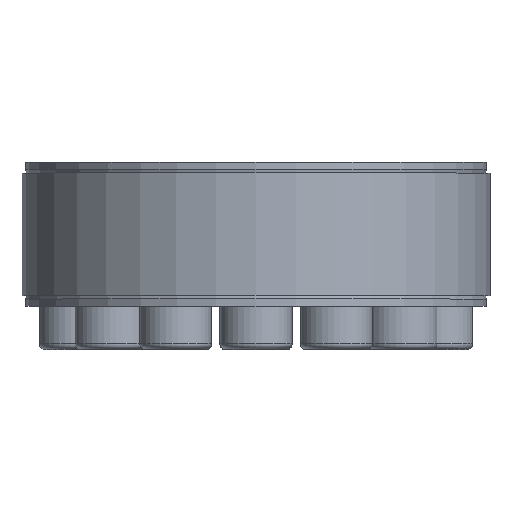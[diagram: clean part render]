
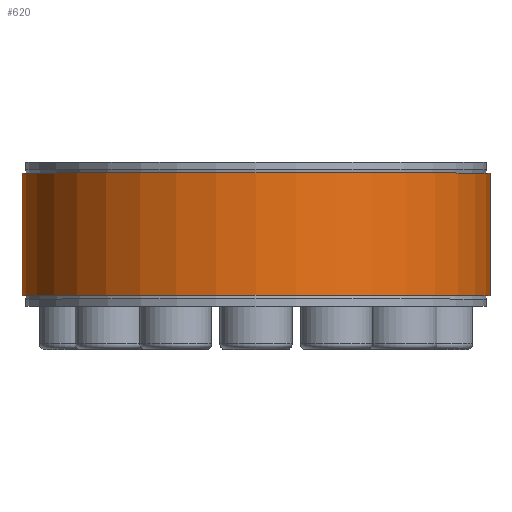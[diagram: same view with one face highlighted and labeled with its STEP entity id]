
A CAD part, top view. The second image highlights one B-rep face of the part: STEP entity #620.
In plain terms, the highlighted cylindrical face has radius 32.5 mm (diameter 65 mm), a partial arc.
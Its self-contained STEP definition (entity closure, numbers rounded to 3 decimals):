
#620 = ADVANCED_FACE( '', ( #1204 ), #1205, .T. );
#1204 = FACE_OUTER_BOUND( '', #2197, .T. );
#1205 = CYLINDRICAL_SURFACE( '', #2198, 32.5 );
#2197 = EDGE_LOOP( '', ( #3278, #3279, #3280, #3281 ) );
#2198 = AXIS2_PLACEMENT_3D( '', #3282, #3283, #3284 );
#3278 = ORIENTED_EDGE( '', *, *, #5551, .F. );
#3279 = ORIENTED_EDGE( '', *, *, #5552, .T. );
#3280 = ORIENTED_EDGE( '', *, *, #5553, .T. );
#3281 = ORIENTED_EDGE( '', *, *, #5554, .F. );
#3282 = CARTESIAN_POINT( '', ( 0., -60., 0. ) );
#3283 = DIRECTION( '', ( 0., -1., 0. ) );
#3284 = DIRECTION( '', ( 0., 0., 1. ) );
#5551 = EDGE_CURVE( '', #6208, #6209, #6210, .F. );
#5552 = EDGE_CURVE( '', #6208, #6211, #6212, .T. );
#5553 = EDGE_CURVE( '', #6211, #6213, #6214, .F. );
#5554 = EDGE_CURVE( '', #6209, #6213, #6215, .T. );
#6208 = VERTEX_POINT( '', #7140 );
#6209 = VERTEX_POINT( '', #7141 );
#6210 = LINE( '', #7142, #7143 );
#6211 = VERTEX_POINT( '', #7144 );
#6212 = CIRCLE( '', #7145, 32.5 );
#6213 = VERTEX_POINT( '', #7146 );
#6214 = LINE( '', #7147, #7148 );
#6215 = CIRCLE( '', #7149, 32.5 );
#7140 = CARTESIAN_POINT( '', ( 0.542, 8.5, -32.495 ) );
#7141 = CARTESIAN_POINT( '', ( 0.542, -8.5, -32.495 ) );
#7142 = CARTESIAN_POINT( '', ( 0.542, -60., -32.495 ) );
#7143 = VECTOR( '', #8849, 1000. );
#7144 = CARTESIAN_POINT( '', ( -0.542, 8.5, -32.495 ) );
#7145 = AXIS2_PLACEMENT_3D( '', #8850, #8851, #8852 );
#7146 = CARTESIAN_POINT( '', ( -0.542, -8.5, -32.495 ) );
#7147 = CARTESIAN_POINT( '', ( -0.542, -60., -32.495 ) );
#7148 = VECTOR( '', #8853, 1000. );
#7149 = AXIS2_PLACEMENT_3D( '', #8854, #8855, #8856 );
#8849 = DIRECTION( '', ( 0., 1., 0. ) );
#8850 = CARTESIAN_POINT( '', ( 0., 8.5, 0. ) );
#8851 = DIRECTION( '', ( 0., -1., 0. ) );
#8852 = DIRECTION( '', ( 0., 0., -1. ) );
#8853 = DIRECTION( '', ( 0., 1., 0. ) );
#8854 = CARTESIAN_POINT( '', ( 0., -8.5, 0. ) );
#8855 = DIRECTION( '', ( 0., -1., 0. ) );
#8856 = DIRECTION( '', ( 0., 0., -1. ) );
